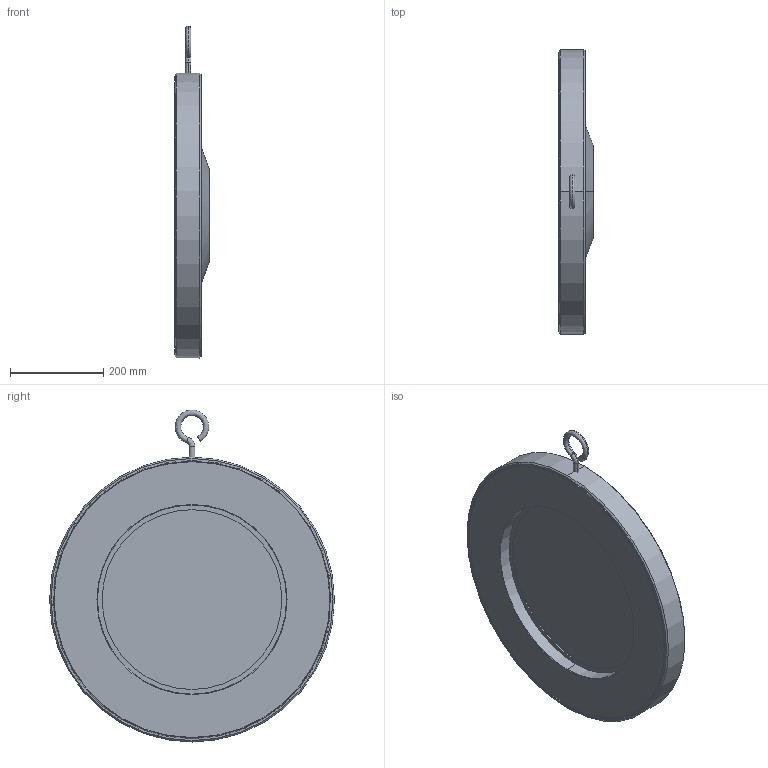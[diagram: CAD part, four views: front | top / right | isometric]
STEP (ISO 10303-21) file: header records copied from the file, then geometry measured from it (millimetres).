
FILE_DESCRIPTION (( 'STEP AP203' ), '1' );
FILE_NAME ('0.STEP', '2017-04-04T01:30:37', ( 'User' ), ( 'shendu' ), 'SwSTEP 2.0', 'SolidWorks 2015', '' );
FILE_SCHEMA (( 'CONFIG_CONTROL_DESIGN' ));
Length unit declared in the file: millimetre
Products named in the file (1): 0
Bounding box: 74.5 x 610 x 710.93 mm (x, y, z)
Volume: 11910341.3 mm3; surface area: 903267.9 mm2
Topology: 11 solids, 11 shells, 184 faces, 449 edges, 279 vertices
Faces by surface type: plane 71, cylinder 42, bspline 41, cone 30
Entity records: 14952 total; most frequent: CARTESIAN_POINT 10755, ORIENTED_EDGE 876, DIRECTION 831, EDGE_CURVE 438, AXIS2_PLACEMENT_3D 317, VERTEX_POINT 279, EDGE_LOOP 199, LINE 197
